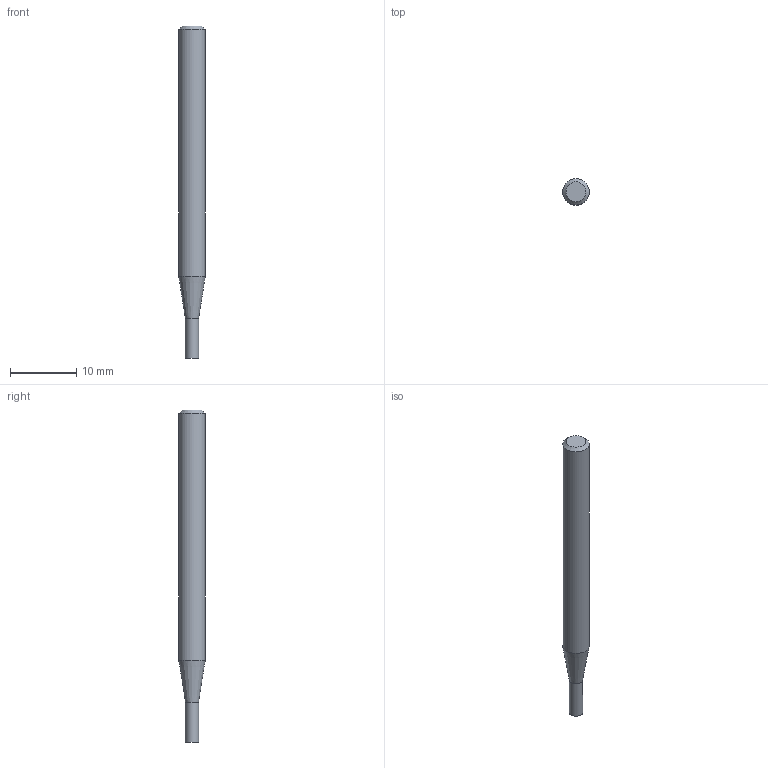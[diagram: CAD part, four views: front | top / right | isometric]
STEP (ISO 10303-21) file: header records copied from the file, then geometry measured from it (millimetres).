
FILE_DESCRIPTION((''),'2;1');
FILE_NAME('C:\Users\nsx150\Desktop\RSE230_20210427\01-00644-02000 RSE230 D2X6.step','2021-05-07T14:53:36',(''),(''),'STEP Write','Mastercam 2021 ... CNC Software, Inc.','');
FILE_SCHEMA(('AUTOMOTIVE_DESIGN'));
Length unit declared in the file: millimetre
Products named in the file (1): None
Bounding box: 4 x 4 x 50 mm (x, y, z)
Volume: 537.3 mm3; surface area: 589.5 mm2
Topology: 2 solids, 2 shells, 8 faces, 10 edges, 6 vertices
Faces by surface type: plane 4, cylinder 2, cone 2
Full cylindrical faces by diameter (mm): 2 x1, 4 x1
Entity records: 190 total; most frequent: DIRECTION 32, CARTESIAN_POINT 22, AXIS2_PLACEMENT_3D 16, ORIENTED_EDGE 12, EDGE_LOOP 12, STYLED_ITEM 11, ADVANCED_FACE 8, VERTEX_POINT 6
